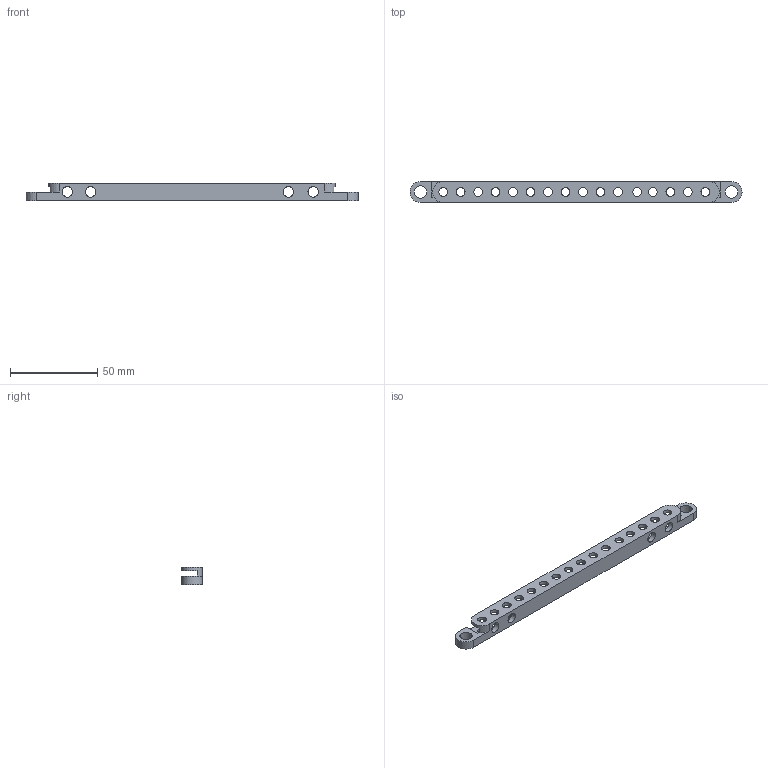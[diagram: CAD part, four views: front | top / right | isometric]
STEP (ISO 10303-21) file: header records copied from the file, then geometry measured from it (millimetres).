
FILE_DESCRIPTION(('STEP AP203'), '1');
FILE_NAME('strip', '', ('UNSPECIFIED'), ('UNSPECIFIED'), 'ASCON STEP Converter 1.3', 'ASCON Math Kernel', '');
FILE_SCHEMA(('CONFIG_CONTROL_DESIGN'));
Length unit declared in the file: millimetre
Bounding box: 190 x 12 x 10 mm (x, y, z)
Volume: 10118.2 mm3; surface area: 10918.1 mm2
Topology: 1 solids, 1 shells, 58 faces, 172 edges, 112 vertices
Faces by surface type: cylinder 42, plane 16
Full cylindrical faces by diameter (mm): 5 x32, 6 x4, 7 x2
Entity records: 2456 total; most frequent: DIRECTION 346, CARTESIAN_POINT 305, ORIENTED_EDGE 268, EDGE_LOOP 168, AXIS2_PLACEMENT_3D 153, EDGE_CURVE 134, VERTEX_POINT 112, FACE_BOUND 96
